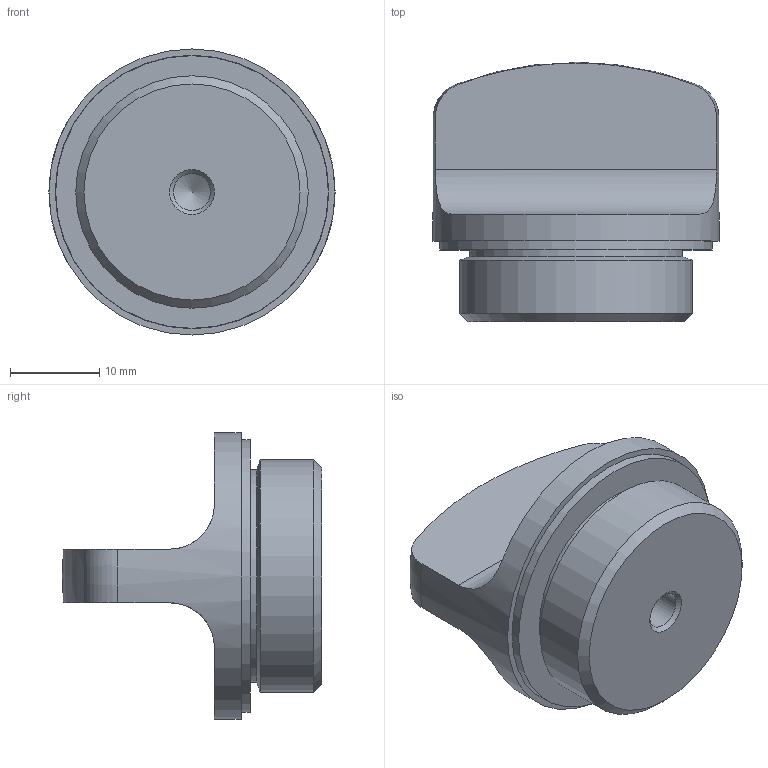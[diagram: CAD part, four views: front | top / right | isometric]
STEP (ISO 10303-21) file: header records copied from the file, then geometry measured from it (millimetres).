
FILE_DESCRIPTION( ( 'STEP AP203' ), '1' );
FILE_NAME( 'C:/Temp/Ganter_Step_05_03_2020/data/3_5/gn441/Threaded plug GN 441-32-M26x1,5-2-SW.stp', '2020-03-12T13:34:55', ( 'License CC BY-ND 4.0' ), ( 'CADENAS' ), ' ', 'PARTsolutions', ' ' );
FILE_SCHEMA( ( 'CONFIG_CONTROL_DESIGN' ) );
Length unit declared in the file: millimetre
Products named in the file (1): _Threaded plug GN 441-32-M26x1,5-2-SW
Bounding box: 32 x 29 x 32 mm (x, y, z)
Volume: 10333.8 mm3; surface area: 4603.4 mm2
Topology: 1 solids, 1 shells, 31 faces, 69 edges, 45 vertices
Faces by surface type: cylinder 12, plane 11, cone 5, torus 2, sphere 1
Full cylindrical faces by diameter (mm): 2 x1, 4.134 x1, 23.8 x1, 23.95 x1, 26 x1, 27.5 x1, 27.6 x1, 30.5 x1, 30.6 x1, 32 x1
Entity records: 984 total; most frequent: CARTESIAN_POINT 342, DIRECTION 128, ORIENTED_EDGE 92, AXIS2_PLACEMENT_3D 60, EDGE_LOOP 54, EDGE_CURVE 46, FACE_OUTER_BOUND 41, VERTEX_POINT 40
